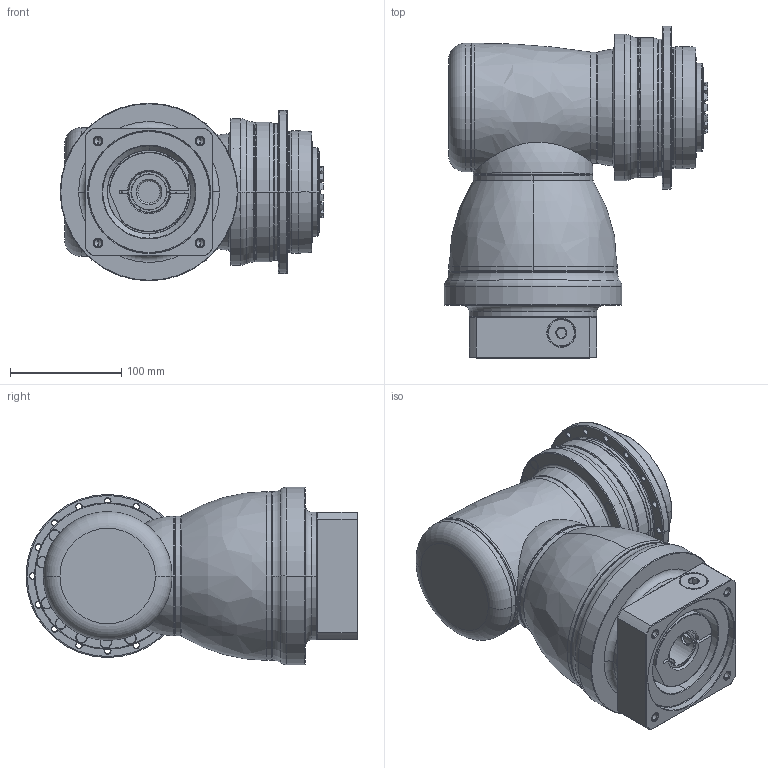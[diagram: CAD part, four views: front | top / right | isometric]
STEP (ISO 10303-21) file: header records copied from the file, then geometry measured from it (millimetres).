
FILE_DESCRIPTION((''),'2;1');
FILE_NAME('APCK110_2ST_SBG_32-P0409710201_ASM','2018-05-18T',('d01226'),(''),'PRO/ENGINEER BY PARAMETRIC TECHNOLOGY CORPORATION, 2008410','PRO/ENGINEER BY PARAMETRIC TECHNOLOGY CORPORATION, 2008410','');
FILE_SCHEMA(('CONFIG_CONTROL_DESIGN'));
Length unit declared in the file: millimetre
Products named in the file (13): P0278401003; P03594C0103; P1211400001; P1802410011; P1018500002; P1365500001; P1007501001; P1318501201; P0409710201; P0503700010; P0912552001; 21711418017; APCK110_2ST_SBG_32-P0409710201_ASM
Assembly tree (12 placements, depth 2):
  APCK110_2ST_SBG_32-P0409710201_ASM
    P0278401003
    P03594C0103
    P1211400001
    P1802410011
    P1018500002
    P1365500001
    P1007501001
    P1318501201
    P0409710201
    P0503700010
    P0912552001
    21711418017
Bounding box: 237.4 x 299 x 160 mm (x, y, z)
Volume: 4773349.8 mm3; surface area: 487143.8 mm2
Topology: 13 solids, 23 shells, 763 faces, 1806 edges, 1119 vertices
Faces by surface type: cylinder 267, cone 205, plane 159, torus 111, bspline 19, sphere 2
Entity records: 27754 total; most frequent: CARTESIAN_POINT 9487, DIRECTION 4144, ORIENTED_EDGE 3542, AXIS2_PLACEMENT_3D 1817, EDGE_CURVE 1792, VERTEX_POINT 1119, CIRCLE 1038, EDGE_LOOP 875
